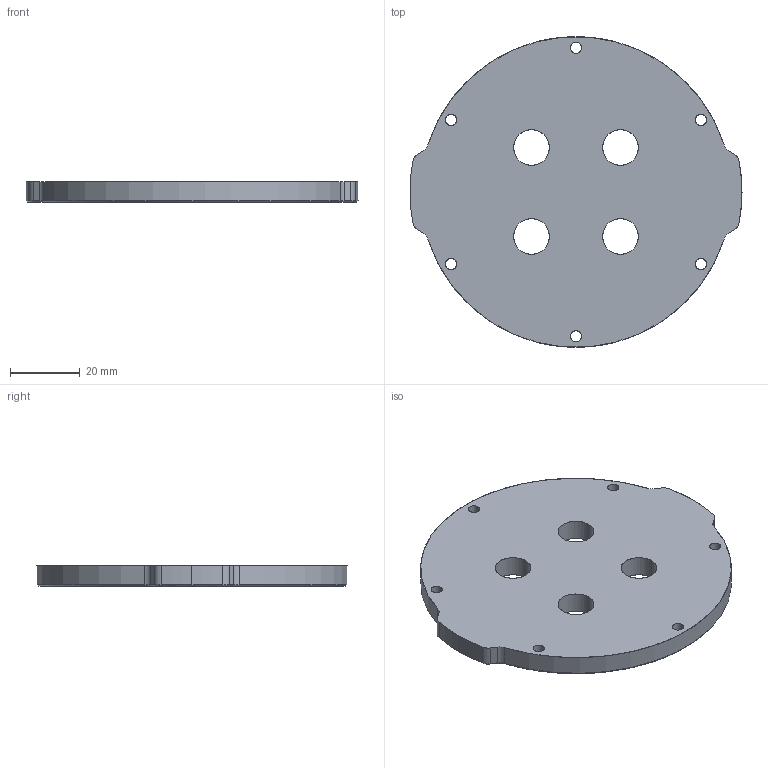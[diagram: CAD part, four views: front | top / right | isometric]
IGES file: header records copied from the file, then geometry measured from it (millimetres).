
Start section: SolidWorks IGES file using analytic representation for surfaces
Global section: file name: C:\Users\Achilles\Dropbox\BR-Engineering\PROJECTS\WTE3\MODELS\DEVELOPMENT\WTE3-M-END-CAP-4-HOLE-R1\WTE3-M-END-CAP-4-HOLE-R1.IGS; native system: SolidWorks 2016; preprocessor: SolidWorks 2016; author: Achilles; date: 181016.155111; units: millimetre
Bounding box: 95 x 88.9 x 6 mm (x, y, z)
Surface area: 14704.3 mm2 (no closed solid volume)
Topology: 0 solids, 0 shells, 56 faces, 1074 edges, 1074 vertices
Faces by surface type: revolution 46, bspline 10
